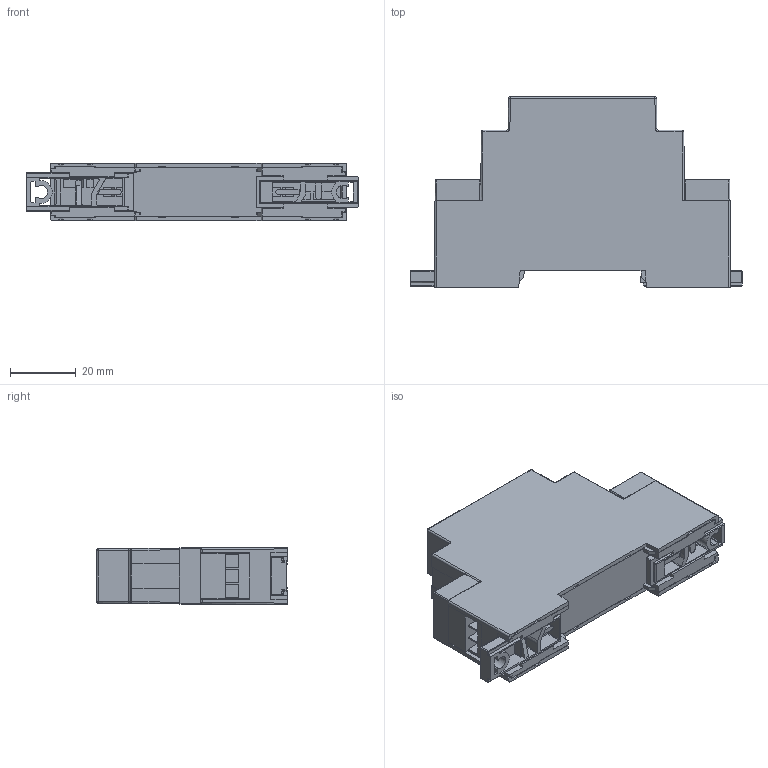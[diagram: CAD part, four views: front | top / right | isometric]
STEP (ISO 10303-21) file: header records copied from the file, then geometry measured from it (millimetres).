
FILE_DESCRIPTION (( 'STEP AP214' ), '1' );
FILE_NAME ('LC-DCE.STEP', '2019-12-12T10:44:10', ( '' ), ( '' ), 'SwSTEP 2.0', 'SolidWorks 2019', '' );
FILE_SCHEMA (( 'AUTOMOTIVE_DESIGN' ));
Length unit declared in the file: millimetre
Products named in the file (1): LC-DCE
Bounding box: 101 x 58 x 17.5 mm (x, y, z)
Volume: 23809.5 mm3; surface area: 36458.9 mm2
Topology: 13 solids, 13 shells, 1023 faces, 2733 edges, 1735 vertices
Faces by surface type: plane 724, cylinder 231, bspline 68
Entity records: 34749 total; most frequent: CARTESIAN_POINT 8496, ORIENTED_EDGE 5422, DIRECTION 4658, EDGE_CURVE 2711, LINE 2004, VECTOR 2004, VERTEX_POINT 1735, AXIS2_PLACEMENT_3D 1327
